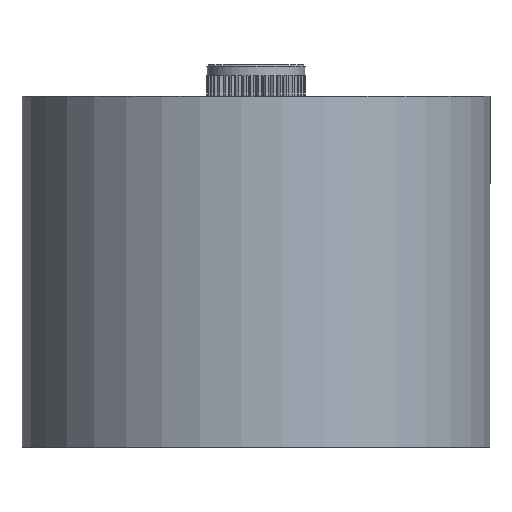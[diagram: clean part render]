
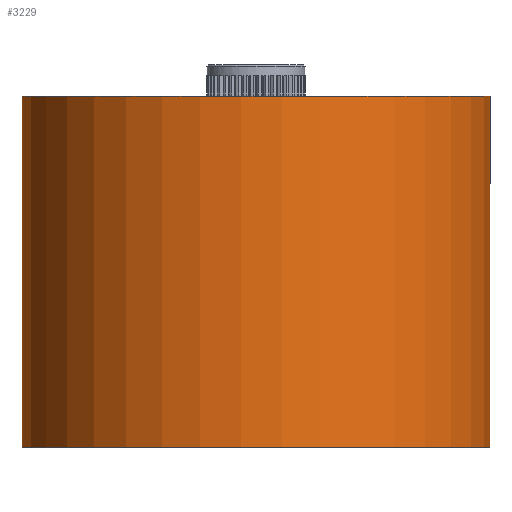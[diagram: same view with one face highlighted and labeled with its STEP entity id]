
A CAD part, front view. The second image highlights one B-rep face of the part: STEP entity #3229.
In plain terms, the highlighted cylindrical face has radius 19 mm (diameter 38 mm), a full revolution.
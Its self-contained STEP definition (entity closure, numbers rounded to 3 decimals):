
#2368=CARTESIAN_POINT('',(10.549,15.802,21.856));
#2369=VERTEX_POINT('',#2368);
#2370=CARTESIAN_POINT('',(0.,0.,21.856));
#2371=DIRECTION('',(0.0,0.0,-1.0));
#2372=DIRECTION('',(-0.555,-0.832,0.0));
#2373=AXIS2_PLACEMENT_3D('',#2370,#2371,#2372);
#2374=CIRCLE('',#2373,19.0);
#2375=EDGE_CURVE('',#2369,#2369,#2374,.F.);
#3210=CARTESIAN_POINT('',(0.,0.,-6.604));
#3211=DIRECTION('',(0.0,0.0,1.0));
#3212=DIRECTION('',(-0.555,-0.832,0.0));
#3213=AXIS2_PLACEMENT_3D('',#3210,#3211,#3212);
#3214=CYLINDRICAL_SURFACE('',#3213,19.0);
#3215=ORIENTED_EDGE('',*,*,#2375,.F.);
#3216=EDGE_LOOP('',(#3215));
#3217=FACE_OUTER_BOUND('',#3216,.T.);
#3218=CARTESIAN_POINT('',(10.549,15.802,-6.604));
#3219=VERTEX_POINT('',#3218);
#3220=CARTESIAN_POINT('',(0.,0.,-6.604));
#3221=DIRECTION('',(0.0,0.0,1.0));
#3222=DIRECTION('',(-0.555,-0.832,0.0));
#3223=AXIS2_PLACEMENT_3D('',#3220,#3221,#3222);
#3224=CIRCLE('',#3223,19.0);
#3225=EDGE_CURVE('',#3219,#3219,#3224,.F.);
#3226=ORIENTED_EDGE('',*,*,#3225,.F.);
#3227=EDGE_LOOP('',(#3226));
#3228=FACE_BOUND('',#3227,.T.);
#3229=ADVANCED_FACE('',(#3217,#3228),#3214,.T.);
